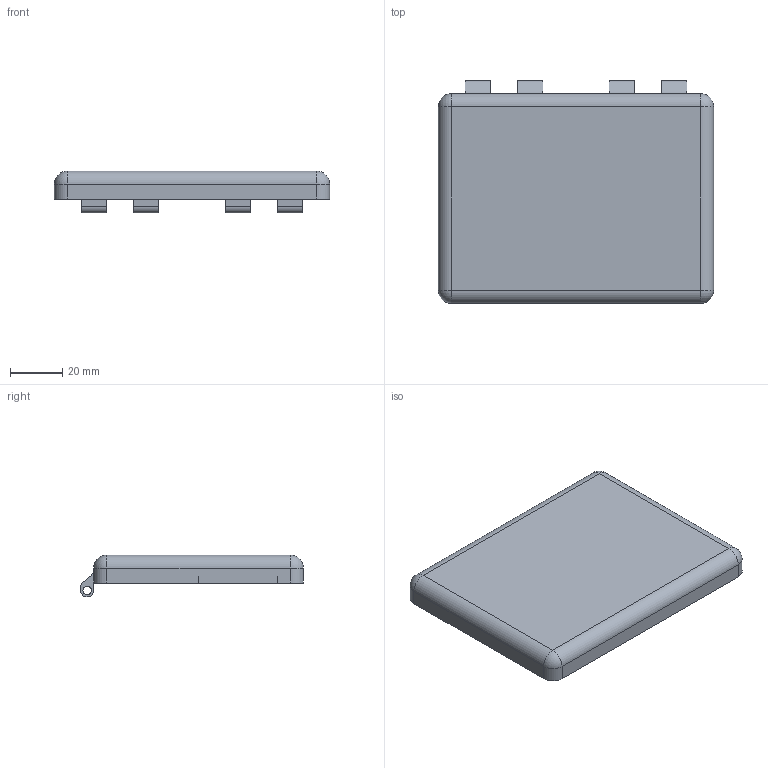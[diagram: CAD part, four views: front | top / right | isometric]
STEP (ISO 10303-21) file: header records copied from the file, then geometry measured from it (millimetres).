
FILE_DESCRIPTION (( 'STEP AP214' ), '1' );
FILE_NAME ('碟赽裔.STEP', '2024-11-13T09:03:51', ( '' ), ( '' ), 'SwSTEP 2.0', 'SolidWorks 2024', '' );
FILE_SCHEMA (( 'AUTOMOTIVE_DESIGN' ));
Length unit declared in the file: millimetre
Products named in the file (1): 盒子盖
Bounding box: 105 x 85 x 16 mm (x, y, z)
Volume: 54045.2 mm3; surface area: 25978.1 mm2
Topology: 1 solids, 1 shells, 130 faces, 332 edges, 212 vertices
Faces by surface type: plane 86, cylinder 40, sphere 4
Entity records: 3911 total; most frequent: CARTESIAN_POINT 671, DIRECTION 670, ORIENTED_EDGE 656, EDGE_CURVE 328, LINE 248, VECTOR 248, VERTEX_POINT 212, AXIS2_PLACEMENT_3D 211
